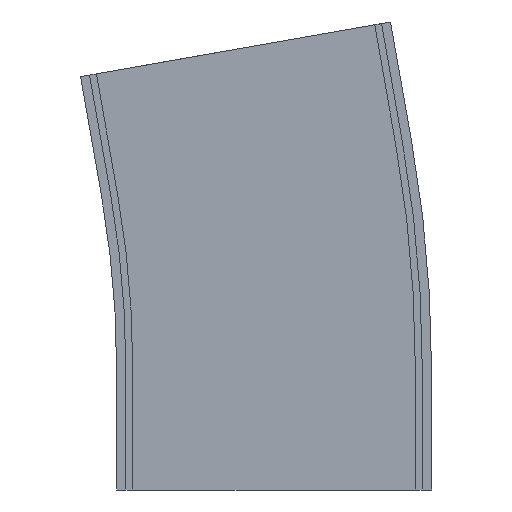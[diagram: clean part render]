
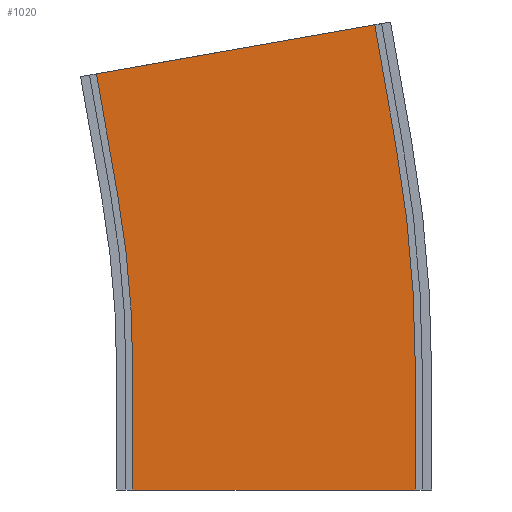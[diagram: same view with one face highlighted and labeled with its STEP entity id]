
A CAD part, left-side view. The second image highlights one B-rep face of the part: STEP entity #1020.
In plain terms, the highlighted planar face has unit normal (-1, 0, 0).
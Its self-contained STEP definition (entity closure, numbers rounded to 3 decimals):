
#8 = ORIENTED_EDGE ( 'NONE', *, *, #926, .T. ) ;
#67 = CARTESIAN_POINT ( 'NONE',  ( -325.25, -61.25, 52.5 ) ) ;
#74 = VERTEX_POINT ( 'NONE', #1072 ) ;
#176 = LINE ( 'NONE', #211, #646 ) ;
#184 = EDGE_LOOP ( 'NONE', ( #565, #1202, #8, #304, #627, #944, #966, #787 ) ) ;
#195 = LINE ( 'NONE', #439, #920 ) ;
#203 = DIRECTION ( 'NONE',  ( 0., 0.174, 0.985 ) ) ;
#211 = CARTESIAN_POINT ( 'NONE',  ( -325.25, 67.916, 128.688 ) ) ;
#215 = EDGE_CURVE ( 'NONE', #705, #1243, #736, .T. ) ;
#262 = VERTEX_POINT ( 'NONE', #1360 ) ;
#304 = ORIENTED_EDGE ( 'NONE', *, *, #1033, .T. ) ;
#316 = DIRECTION ( 'NONE',  ( 0., 0., 1. ) ) ;
#322 = CIRCLE ( 'NONE', #465, 438.75 ) ;
#329 = CARTESIAN_POINT ( 'NONE',  ( -325.25, 61.25, 52.5 ) ) ;
#348 = CARTESIAN_POINT ( 'NONE',  ( -325.25, -52.723, 149.96 ) ) ;
#358 = LINE ( 'NONE', #860, #1344 ) ;
#387 = VERTEX_POINT ( 'NONE', #67 ) ;
#391 = DIRECTION ( 'NONE',  ( 0., 0.174, 0.985 ) ) ;
#439 = CARTESIAN_POINT ( 'NONE',  ( -325.25, -61.25, 52.5 ) ) ;
#440 = VECTOR ( 'NONE', #707, 1000. ) ;
#465 = AXIS2_PLACEMENT_3D ( 'NONE', #759, #764, #316 ) ;
#495 = EDGE_CURVE ( 'NONE', #705, #262, #322, .T. ) ;
#507 = PLANE ( 'NONE',  #1306 ) ;
#561 = EDGE_CURVE ( 'NONE', #1043, #74, #1224, .T. ) ;
#565 = ORIENTED_EDGE ( 'NONE', *, *, #1105, .T. ) ;
#598 = CARTESIAN_POINT ( 'NONE',  ( -325.25, -52.723, 149.96 ) ) ;
#599 = CARTESIAN_POINT ( 'NONE',  ( -325.25, 61.25, 52.5 ) ) ;
#614 = DIRECTION ( 'NONE',  ( 1., 0., 0. ) ) ;
#627 = ORIENTED_EDGE ( 'NONE', *, *, #561, .F. ) ;
#646 = VECTOR ( 'NONE', #203, 1000. ) ;
#668 = CARTESIAN_POINT ( 'NONE',  ( -325.25, 61.25, 0. ) ) ;
#670 = DIRECTION ( 'NONE',  ( 0., -0.985, 0.174 ) ) ;
#701 = DIRECTION ( 'NONE',  ( 0., 0., -1. ) ) ;
#705 = VERTEX_POINT ( 'NONE', #329 ) ;
#707 = DIRECTION ( 'NONE',  ( 0., 0., -1. ) ) ;
#736 = LINE ( 'NONE', #599, #440 ) ;
#759 = CARTESIAN_POINT ( 'NONE',  ( -325.25, 500., 52.5 ) ) ;
#764 = DIRECTION ( 'NONE',  ( -1., 0., 0. ) ) ;
#779 = DIRECTION ( 'NONE',  ( 0., 0., -1. ) ) ;
#787 = ORIENTED_EDGE ( 'NONE', *, *, #215, .T. ) ;
#790 = FACE_OUTER_BOUND ( 'NONE', #184, .T. ) ;
#860 = CARTESIAN_POINT ( 'NONE',  ( -325.25, -61.25, 0. ) ) ;
#920 = VECTOR ( 'NONE', #779, 1000. ) ;
#922 = VECTOR ( 'NONE', #391, 1000. ) ;
#926 = EDGE_CURVE ( 'NONE', #387, #1339, #1225, .T. ) ;
#944 = ORIENTED_EDGE ( 'NONE', *, *, #1061, .F. ) ;
#966 = ORIENTED_EDGE ( 'NONE', *, *, #495, .F. ) ;
#970 = VERTEX_POINT ( 'NONE', #1343 ) ;
#992 = AXIS2_PLACEMENT_3D ( 'NONE', #1029, #1045, #1132 ) ;
#1020 = ADVANCED_FACE ( 'NONE', ( #790 ), #507, .F. ) ;
#1029 = CARTESIAN_POINT ( 'NONE',  ( -325.25, 500., 52.5 ) ) ;
#1033 = EDGE_CURVE ( 'NONE', #1339, #74, #1056, .T. ) ;
#1043 = VERTEX_POINT ( 'NONE', #1341 ) ;
#1045 = DIRECTION ( 'NONE',  ( -1., 0., 0. ) ) ;
#1056 = LINE ( 'NONE', #598, #922 ) ;
#1061 = EDGE_CURVE ( 'NONE', #262, #1043, #176, .T. ) ;
#1072 = CARTESIAN_POINT ( 'NONE',  ( -325.25, -43.607, 201.662 ) ) ;
#1105 = EDGE_CURVE ( 'NONE', #1243, #970, #358, .T. ) ;
#1132 = DIRECTION ( 'NONE',  ( 0., 0., 1. ) ) ;
#1202 = ORIENTED_EDGE ( 'NONE', *, *, #1303, .F. ) ;
#1208 = VECTOR ( 'NONE', #670, 1000. ) ;
#1220 = CARTESIAN_POINT ( 'NONE',  ( -325.25, -61.25, 52.5 ) ) ;
#1224 = LINE ( 'NONE', #1293, #1208 ) ;
#1225 = CIRCLE ( 'NONE', #992, 561.25 ) ;
#1243 = VERTEX_POINT ( 'NONE', #668 ) ;
#1293 = CARTESIAN_POINT ( 'NONE',  ( -325.25, -43.607, 201.662 ) ) ;
#1303 = EDGE_CURVE ( 'NONE', #387, #970, #195, .T. ) ;
#1306 = AXIS2_PLACEMENT_3D ( 'NONE', #1220, #614, #701 ) ;
#1339 = VERTEX_POINT ( 'NONE', #348 ) ;
#1341 = CARTESIAN_POINT ( 'NONE',  ( -325.25, 77.032, 180.391 ) ) ;
#1343 = CARTESIAN_POINT ( 'NONE',  ( -325.25, -61.25, 0. ) ) ;
#1344 = VECTOR ( 'NONE', #1373, 1000. ) ;
#1360 = CARTESIAN_POINT ( 'NONE',  ( -325.25, 67.916, 128.688 ) ) ;
#1373 = DIRECTION ( 'NONE',  ( 0., -1., 0. ) ) ;
